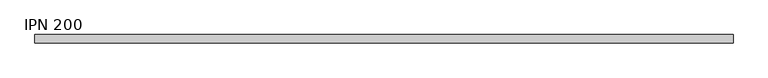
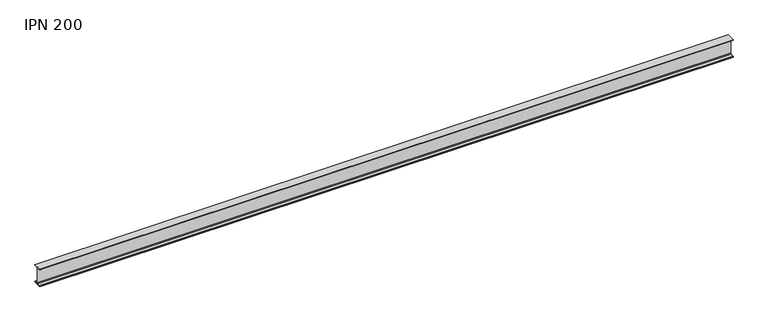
"""IFC4 building model written with IfcOpenShell, lengths in millimetres: beam geometry, IPN - Secciones en I con alas cónicas : IPN 200."""

from ifc_helpers import new_model, si_unit, point, frame, frame_2d, origin, place, context, project, spatial, polyline, circle_curve, trimmed, segment, composite_curve, outline, extrude, source, transform, mapped, element, save


def ipn_200_8969ec96(model_context):
    return source(origin(), model_context, "Body", "SweptSolid", [
        extrude(outline(composite_curve([segment(polyline([(45.0, 100.0), (45.0, 95.763886)]), True, "CONTINUOUS"), segment(trimmed(circle_curve(frame_2d((40.5, 95.763886)), 4.5), [point((45.0, 95.763886))], [point((41.1239153, 91.3073481))], False, "CARTESIAN"), True, "CONTINUOUS"), segment(polyline([(41.1239153, 91.3073481), (10.2101412, 86.9794198)]), True, "CONTINUOUS"), segment(trimmed(circle_curve(frame_2d((11.25, 79.5518567)), 7.5), [point((10.2101412, 86.9794198))], [point((3.75, 79.5518567))], True, "CARTESIAN"), True, "CONTINUOUS"), segment(polyline([(3.75, 79.5518567), (3.75, -79.5518567)]), True, "CONTINUOUS"), segment(trimmed(circle_curve(frame_2d((11.25, -79.5518567)), 7.5), [point((3.75, -79.5518567))], [point((10.2101412, -86.9794198))], True, "CARTESIAN"), True, "CONTINUOUS"), segment(polyline([(10.2101412, -86.9794198), (41.1239153, -91.3073481)]), True, "CONTINUOUS"), segment(trimmed(circle_curve(frame_2d((40.5, -95.763886)), 4.5), [point((41.1239153, -91.3073481))], [point((45.0, -95.763886))], False, "CARTESIAN"), True, "CONTINUOUS"), segment(polyline([(45.0, -95.763886), (45.0, -100.0), (-45.0, -100.0), (-45.0, -95.763886)]), True, "CONTINUOUS"), segment(trimmed(circle_curve(frame_2d((-40.5, -95.763886)), 4.5), [point((-45.0, -95.763886))], [point((-41.1239153, -91.3073481))], False, "CARTESIAN"), True, "CONTINUOUS"), segment(polyline([(-41.1239153, -91.3073481), (-10.2101412, -86.9794198)]), True, "CONTINUOUS"), segment(trimmed(circle_curve(frame_2d((-11.25, -79.5518567)), 7.5), [point((-10.2101412, -86.9794198))], [point((-3.75, -79.5518567))], True, "CARTESIAN"), True, "CONTINUOUS"), segment(polyline([(-3.75, -79.5518567), (-3.75, 79.5518567)]), True, "CONTINUOUS"), segment(trimmed(circle_curve(frame_2d((-11.25, 79.5518567)), 7.5), [point((-3.75, 79.5518567))], [point((-10.2101412, 86.9794198))], True, "CARTESIAN"), True, "CONTINUOUS"), segment(polyline([(-10.2101412, 86.9794198), (-41.1239153, 91.3073481)]), True, "CONTINUOUS"), segment(trimmed(circle_curve(frame_2d((-40.5, 95.763886)), 4.5), [point((-41.1239153, 91.3073481))], [point((-45.0, 95.763886))], False, "CARTESIAN"), True, "CONTINUOUS"), segment(polyline([(-45.0, 95.763886), (-45.0, 100.0), (45.0, 100.0)]), True, "CONTINUOUS")], self_intersect=False)), frame((-3804.0, 0.0, 0.0), z_axis=(1.0, 0.0, 0.0), x_axis=(0.0, 1.0, 0.0)), (0.0, 0.0, 1.0), 7548.0),
    ])


if __name__ == "__main__":
    model = new_model("IFC4")
    model_context = context("Model", 3, world=origin())
    ifc_project = project(units=[si_unit("LENGTHUNIT", "METRE", prefix="MILLI")], contexts=[model_context])
    site = spatial("IfcSite", under=ifc_project)
    building = spatial("IfcBuilding", under=site)
    placement = place(None, origin())
    ipn_200_shape = ipn_200_8969ec96(model_context)
    element("IfcBeam", 1, ObjectType="IPN - Secciones en I con alas cónicas : IPN 200", at=placement, inside=building, context=model_context, shape_type="MappedRepresentation", body=[
        mapped(ipn_200_shape, transform((0.0, 0.0, 0.0), x_axis=(1.0, 0.0, 0.0), y_axis=(0.0, 1.0, 0.0), z_axis=(0.0, 0.0, 1.0))),
    ])
    save(model, "model.ifc")
